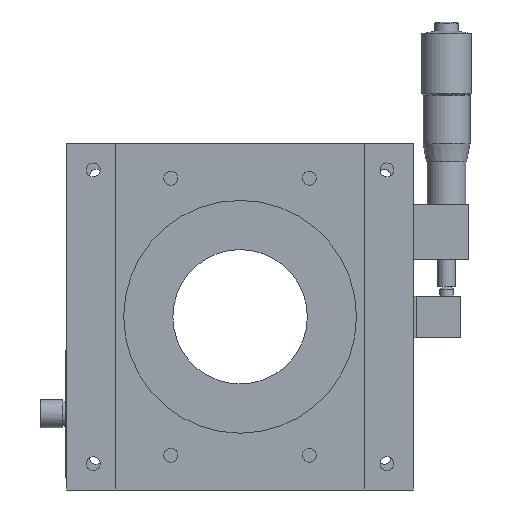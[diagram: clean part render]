
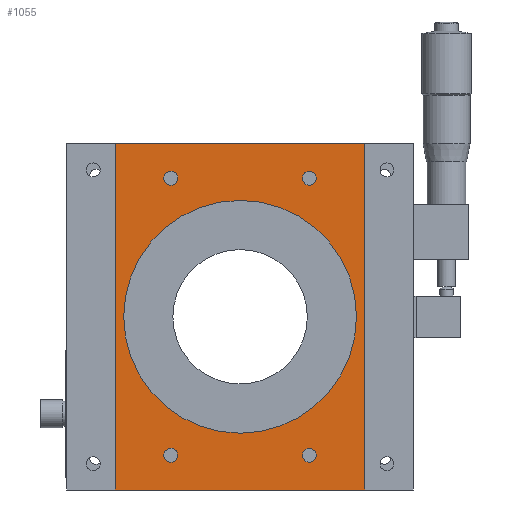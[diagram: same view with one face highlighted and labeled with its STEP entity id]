
A CAD part, front view. The second image highlights one B-rep face of the part: STEP entity #1055.
In plain terms, the highlighted planar face has unit normal (0, -1, 0).
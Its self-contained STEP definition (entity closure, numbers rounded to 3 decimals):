
#15 = EDGE_CURVE ( 'NONE', #5466, #1114, #72, .T. ) ;
#72 = LINE ( 'NONE', #1069, #5786 ) ;
#144 = VECTOR ( 'NONE', #4591, 1000. ) ;
#330 = CARTESIAN_POINT ( 'NONE',  ( 0., 0.5, 42. ) ) ;
#331 = LINE ( 'NONE', #5155, #144 ) ;
#361 = EDGE_CURVE ( 'NONE', #5881, #2235, #2732, .T. ) ;
#547 = AXIS2_PLACEMENT_3D ( 'NONE', #3885, #6580, #1155 ) ;
#660 = CIRCLE ( 'NONE', #5795, 2.5 ) ;
#663 = EDGE_CURVE ( 'NONE', #5954, #5954, #660, .T. ) ;
#753 = CIRCLE ( 'NONE', #2438, 42. ) ;
#915 = CARTESIAN_POINT ( 'NONE',  ( -45., 0.5, 62.5 ) ) ;
#1055 = ADVANCED_FACE ( 'NONE', ( #1564, #4341, #7080, #3201, #5647, #4163 ), #6873, .F. ) ;
#1069 = CARTESIAN_POINT ( 'NONE',  ( -45., 0.5, -62.5 ) ) ;
#1079 = VERTEX_POINT ( 'NONE', #2659 ) ;
#1114 = VERTEX_POINT ( 'NONE', #1479 ) ;
#1155 = DIRECTION ( 'NONE',  ( 0., 0., 1. ) ) ;
#1429 = VECTOR ( 'NONE', #1824, 1000. ) ;
#1479 = CARTESIAN_POINT ( 'NONE',  ( -45., 0.5, -62.5 ) ) ;
#1514 = DIRECTION ( 'NONE',  ( 0., -1., 0. ) ) ;
#1534 = AXIS2_PLACEMENT_3D ( 'NONE', #3525, #3499, #3450 ) ;
#1564 = FACE_BOUND ( 'NONE', #6225, .T. ) ;
#1618 = EDGE_CURVE ( 'NONE', #3588, #3588, #4541, .T. ) ;
#1688 = DIRECTION ( 'NONE',  ( 0., 0., 1. ) ) ;
#1778 = EDGE_LOOP ( 'NONE', ( #4971 ) ) ;
#1824 = DIRECTION ( 'NONE',  ( -1., 0., 0. ) ) ;
#1850 = CARTESIAN_POINT ( 'NONE',  ( -25., 0.5, 50. ) ) ;
#1981 = DIRECTION ( 'NONE',  ( 0., 1., 0. ) ) ;
#2235 = VERTEX_POINT ( 'NONE', #4820 ) ;
#2240 = EDGE_CURVE ( 'NONE', #3059, #3059, #4344, .T. ) ;
#2321 = ORIENTED_EDGE ( 'NONE', *, *, #663, .F. ) ;
#2409 = EDGE_LOOP ( 'NONE', ( #2321 ) ) ;
#2415 = EDGE_LOOP ( 'NONE', ( #6796 ) ) ;
#2438 = AXIS2_PLACEMENT_3D ( 'NONE', #3270, #7122, #3839 ) ;
#2473 = DIRECTION ( 'NONE',  ( 0., -1., 0. ) ) ;
#2587 = ORIENTED_EDGE ( 'NONE', *, *, #2727, .F. ) ;
#2659 = CARTESIAN_POINT ( 'NONE',  ( 25., 0.5, 52.5 ) ) ;
#2727 = EDGE_CURVE ( 'NONE', #1079, #1079, #4494, .T. ) ;
#2732 = LINE ( 'NONE', #915, #1429 ) ;
#3054 = AXIS2_PLACEMENT_3D ( 'NONE', #4887, #2473, #6007 ) ;
#3059 = VERTEX_POINT ( 'NONE', #5418 ) ;
#3060 = ORIENTED_EDGE ( 'NONE', *, *, #4577, .F. ) ;
#3135 = LINE ( 'NONE', #5533, #3313 ) ;
#3201 = FACE_BOUND ( 'NONE', #2415, .T. ) ;
#3270 = CARTESIAN_POINT ( 'NONE',  ( 0., 0.5, 0. ) ) ;
#3313 = VECTOR ( 'NONE', #1688, 1000. ) ;
#3450 = DIRECTION ( 'NONE',  ( 0., 0., 1. ) ) ;
#3499 = DIRECTION ( 'NONE',  ( 0., -1., 0. ) ) ;
#3525 = CARTESIAN_POINT ( 'NONE',  ( 25., 0.5, 50. ) ) ;
#3578 = CARTESIAN_POINT ( 'NONE',  ( -45., 0.5, -62.5 ) ) ;
#3588 = VERTEX_POINT ( 'NONE', #4838 ) ;
#3692 = VERTEX_POINT ( 'NONE', #330 ) ;
#3839 = DIRECTION ( 'NONE',  ( 0., 0., 1. ) ) ;
#3885 = CARTESIAN_POINT ( 'NONE',  ( 25., 0.5, -50. ) ) ;
#3996 = CARTESIAN_POINT ( 'NONE',  ( 45., 0.5, -62.5 ) ) ;
#4153 = CARTESIAN_POINT ( 'NONE',  ( 45., 0.5, 62.5 ) ) ;
#4162 = ORIENTED_EDGE ( 'NONE', *, *, #15, .F. ) ;
#4163 = FACE_BOUND ( 'NONE', #2409, .T. ) ;
#4281 = DIRECTION ( 'NONE',  ( 0., 0., 1. ) ) ;
#4341 = FACE_BOUND ( 'NONE', #6806, .T. ) ;
#4344 = CIRCLE ( 'NONE', #3054, 2.5 ) ;
#4348 = EDGE_CURVE ( 'NONE', #5466, #5881, #3135, .T. ) ;
#4494 = CIRCLE ( 'NONE', #1534, 2.5 ) ;
#4541 = CIRCLE ( 'NONE', #547, 2.5 ) ;
#4577 = EDGE_CURVE ( 'NONE', #1114, #2235, #331, .T. ) ;
#4591 = DIRECTION ( 'NONE',  ( 0., 0., 1. ) ) ;
#4682 = ORIENTED_EDGE ( 'NONE', *, *, #4348, .T. ) ;
#4775 = AXIS2_PLACEMENT_3D ( 'NONE', #3578, #1981, #4787 ) ;
#4787 = DIRECTION ( 'NONE',  ( 0., 0., 1. ) ) ;
#4789 = CARTESIAN_POINT ( 'NONE',  ( -25., 0.5, 52.5 ) ) ;
#4820 = CARTESIAN_POINT ( 'NONE',  ( -45., 0.5, 62.5 ) ) ;
#4838 = CARTESIAN_POINT ( 'NONE',  ( 25., 0.5, -47.5 ) ) ;
#4887 = CARTESIAN_POINT ( 'NONE',  ( -25., 0.5, -50. ) ) ;
#4971 = ORIENTED_EDGE ( 'NONE', *, *, #1618, .F. ) ;
#5155 = CARTESIAN_POINT ( 'NONE',  ( -45., 0.5, -62.5 ) ) ;
#5418 = CARTESIAN_POINT ( 'NONE',  ( -25., 0.5, -47.5 ) ) ;
#5466 = VERTEX_POINT ( 'NONE', #3996 ) ;
#5533 = CARTESIAN_POINT ( 'NONE',  ( 45., 0.5, -62.5 ) ) ;
#5647 = FACE_BOUND ( 'NONE', #1778, .T. ) ;
#5786 = VECTOR ( 'NONE', #7096, 1000. ) ;
#5795 = AXIS2_PLACEMENT_3D ( 'NONE', #1850, #1514, #4281 ) ;
#5881 = VERTEX_POINT ( 'NONE', #4153 ) ;
#5954 = VERTEX_POINT ( 'NONE', #4789 ) ;
#6007 = DIRECTION ( 'NONE',  ( 0., 0., 1. ) ) ;
#6225 = EDGE_LOOP ( 'NONE', ( #2587 ) ) ;
#6471 = ORIENTED_EDGE ( 'NONE', *, *, #2240, .F. ) ;
#6580 = DIRECTION ( 'NONE',  ( 0., -1., 0. ) ) ;
#6589 = EDGE_CURVE ( 'NONE', #3692, #3692, #753, .T. ) ;
#6662 = ORIENTED_EDGE ( 'NONE', *, *, #361, .T. ) ;
#6796 = ORIENTED_EDGE ( 'NONE', *, *, #6589, .F. ) ;
#6806 = EDGE_LOOP ( 'NONE', ( #6471 ) ) ;
#6873 = PLANE ( 'NONE',  #4775 ) ;
#6998 = EDGE_LOOP ( 'NONE', ( #6662, #3060, #4162, #4682 ) ) ;
#7080 = FACE_OUTER_BOUND ( 'NONE', #6998, .T. ) ;
#7096 = DIRECTION ( 'NONE',  ( -1., 0., 0. ) ) ;
#7122 = DIRECTION ( 'NONE',  ( 0., -1., 0. ) ) ;
